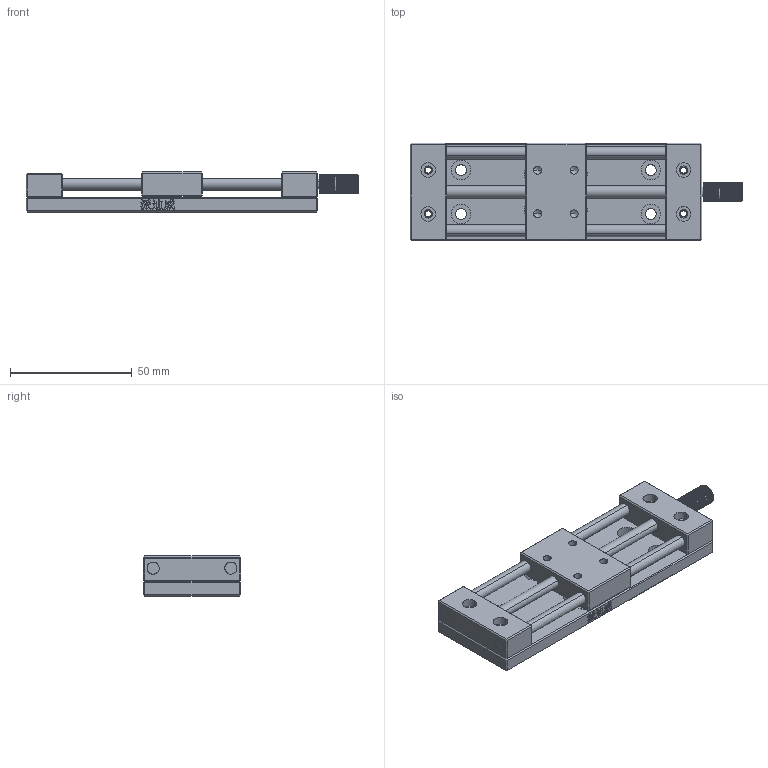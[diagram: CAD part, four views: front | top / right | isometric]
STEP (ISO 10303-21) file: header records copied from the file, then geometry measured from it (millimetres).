
FILE_DESCRIPTION (( 'STEP AP203' ), '1' );
FILE_NAME ('PT-SD65.STEP', '2022-08-21T07:51:09', ( '' ), ( '' ), 'SwSTEP 2.0', 'SolidWorks 2017', '' );
FILE_SCHEMA (( 'CONFIG_CONTROL_DESIGN' ));
Length unit declared in the file: millimetre
Products named in the file (9): 絳寢; ヶ粣創釱; PT-SD65; 綴粣創釱; 怢醱; 忒謫; deep groove ball bearings gb_Rolling bearings 617-4 GB 276-94; 菁釱; 佪話
Assembly tree (10 placements, depth 2):
  PT-SD65
    綴粣創釱
    ヶ粣創釱
    絳寢  x2
    忒謫
    佪話
    怢醱
    deep groove ball bearings gb_Rolling bearings 617-4 GB 276-94  x2
    菁釱
Bounding box: 136.5 x 40 x 16.5 mm (x, y, z)
Volume: 51400.1 mm3; surface area: 30132.7 mm2
Topology: 10 solids, 10 shells, 1143 faces, 3327 edges, 2170 vertices
Faces by surface type: cylinder 395, bspline 384, plane 352, cone 12
Entity records: 46818 total; most frequent: CARTESIAN_POINT 21873, ORIENTED_EDGE 5632, DIRECTION 4041, EDGE_CURVE 2816, VERTEX_POINT 1839, AXIS2_PLACEMENT_3D 1379, LINE 1283, VECTOR 1283
